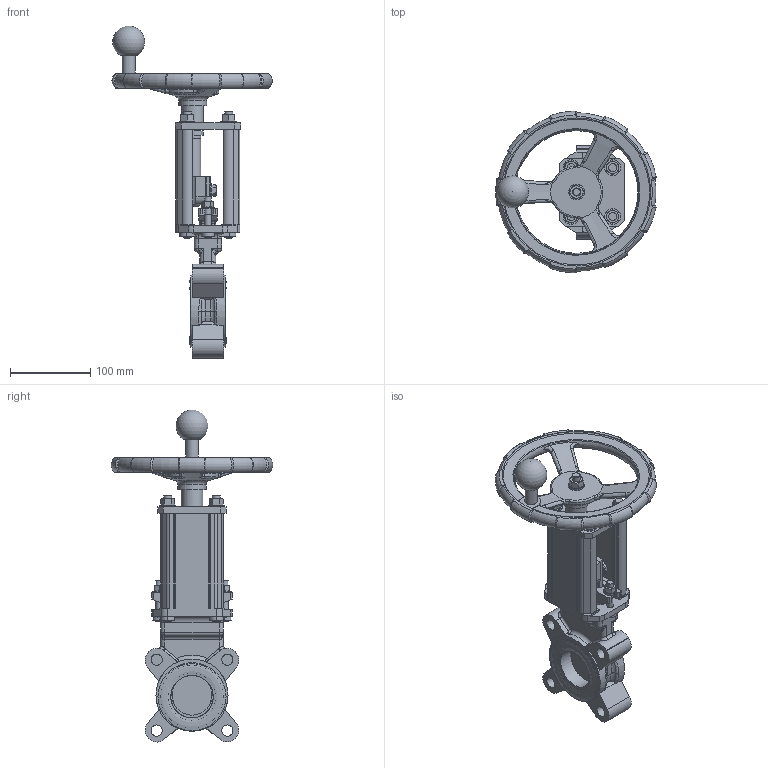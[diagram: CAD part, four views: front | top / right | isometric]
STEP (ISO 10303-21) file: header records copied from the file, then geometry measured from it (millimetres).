
FILE_DESCRIPTION(('STEP AP203'),'1');
FILE_NAME('G:/KONSTRUK/3-d block för CD/WB VALVE/HAND WHEEL/50/WB11_14-DN50-PN10-HW.stp','2016-09-27T06:14:25',(' '),(' '),'Spatial InterOp 3D',' ',' ');
FILE_SCHEMA(('CONFIG_CONTROL_DESIGN'));
Length unit declared in the file: millimetre
Products named in the file (1): 1
Bounding box: 200.06 x 201.96 x 414.55 mm (x, y, z)
Volume: 1052681.5 mm3; surface area: 329139.2 mm2
Topology: 1 solids, 7 shells, 974 faces, 2614 edges, 1650 vertices
Faces by surface type: plane 430, cylinder 237, cone 132, bspline 92, torus 78, sphere 5
Full cylindrical faces by diameter (mm): 6 x6, 8 x2, 8.4 x2, 8.5 x1, 9 x2, 9.01 x2, 10 x15, 10.791 x4, 10.985 x1, 11 x4, 12.2 x1, 14 x6, 15 x1, 16 x3, 18.585 x2, 19.4 x1, 19.5 x2, 19.715 x4, 19.74 x1, 20 x2, 22 x1, 27 x2, 35 x1, 50 x2, 53 x2, 85 x2, 90 x2, 185 x2
Entity records: 56533 total; most frequent: CARTESIAN_POINT 33757, ORIENTED_EDGE 4808, DIRECTION 4540, EDGE_CURVE 2404, AXIS2_PLACEMENT_3D 1778, VERTEX_POINT 1584, EDGE_LOOP 1174, FACE_OUTER_BOUND 1064
